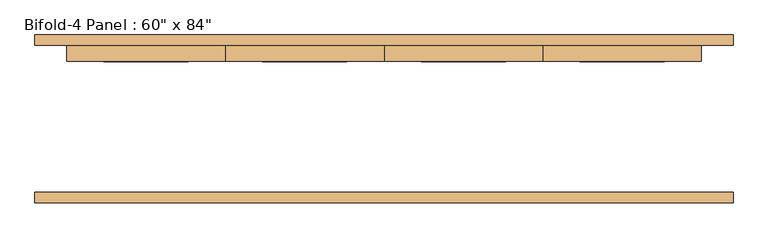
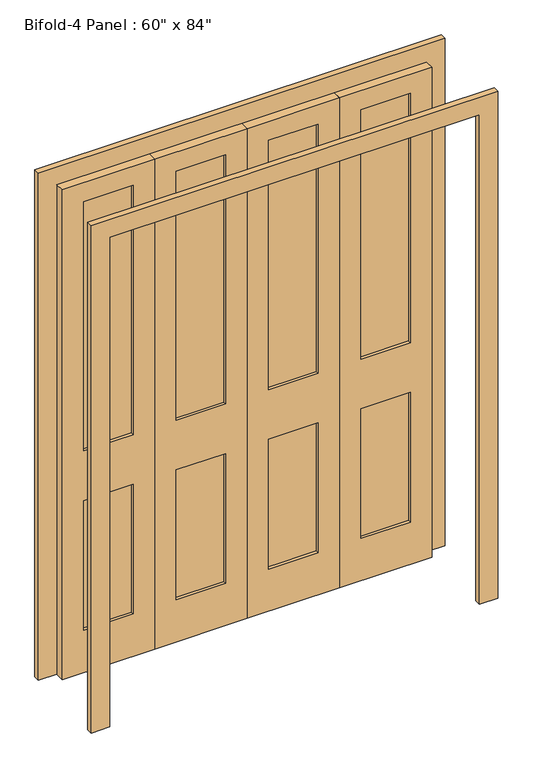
"""IFC4 building model written with IfcOpenShell, lengths in millimetres: door geometry."""

import ifcopenshell
import ifcopenshell.guid

model = None  # the IFC model being written
_history = None  # IfcOwnerHistory: only IFC2X3 demands one
_inside = {}  # id of a spatial element -> (the spatial element, [elements in it])
_under = {}  # id of a project, library or spatial element -> (it, [spatial elements below it])
_declared = {}  # id of a project -> (the project, [libraries it declares])
_typed = {}  # id of a type object -> (the type object, [elements of that type])
_made_of = {}  # id of a material, layer set ... -> (it, [elements and type objects made of it])


def new_model(schema):
    """Start an empty IFC model of exactly this schema.

    Asked for "IFC4X3", IfcOpenShell would pick the latest addendum, in which some entities
    have other attributes; the version numbers below select the first issue.
    IFC2X3 requires an IfcOwnerHistory on every rooted entity: one is made here for all.
    """
    global model, _history
    if schema == "IFC4X3":
        model = ifcopenshell.file(schema_version=(4, 3, 0, 0))
    else:
        model = ifcopenshell.file(schema=schema)
    _inside.clear()
    _under.clear()
    _declared.clear()
    _typed.clear()
    _made_of.clear()
    _history = None
    if model.schema == "IFC2X3":
        org = make("IfcOrganization", Name="unknown")
        user = make(
            "IfcPersonAndOrganization",
            ThePerson=make("IfcPerson", FamilyName="unknown"),
            TheOrganization=org,
        )
        app = make(
            "IfcApplication",
            ApplicationDeveloper=org,
            Version="unknown",
            ApplicationFullName="unknown",
            ApplicationIdentifier="unknown",
        )
        _history = make(
            "IfcOwnerHistory",
            OwningUser=user,
            OwningApplication=app,
            ChangeAction="ADDED",
            CreationDate=0,
        )
    return model


def make(cls, **values):
    """One entity of the class cls with the attributes given. An attribute that is None is left unset."""
    return model.create_entity(
        cls, **{name: value for name, value in values.items() if value is not None}
    )


def rooted(cls, **values):
    """An entity with a GlobalId (a new one), such as an element, a storey or a relation."""
    return make(cls, GlobalId=ifcopenshell.guid.new(), OwnerHistory=_history, **values)


def si_unit(unit_type, name, prefix=None):
    """IfcSIUnit, for example si_unit("LENGTHUNIT", "METRE", prefix="MILLI")."""
    return make("IfcSIUnit", UnitType=unit_type, Prefix=prefix, Name=name)


def assignment(units):
    """IfcUnitAssignment: the units of a project."""
    return None if units is None else make("IfcUnitAssignment", Units=units)


def point(xyz):
    """IfcCartesianPoint."""
    return None if xyz is None else make("IfcCartesianPoint", Coordinates=xyz)


def direction(xyz):
    """IfcDirection."""
    return None if xyz is None else make("IfcDirection", DirectionRatios=xyz)


def frame(location, z_axis=None, x_axis=None):
    """IfcAxis2Placement3D, a coordinate frame: its origin and axes. An axis left out is left unset."""
    return make(
        "IfcAxis2Placement3D",
        Location=point(location),
        Axis=direction(z_axis),
        RefDirection=direction(x_axis),
    )


def origin():
    """The frame at (0, 0, 0) with its axes left unset."""
    return frame((0.0, 0.0, 0.0))


def place(relative_to, where):
    """IfcLocalPlacement: puts the frame where relative to a parent placement (None: the world)."""
    return make(
        "IfcLocalPlacement", PlacementRelTo=relative_to, RelativePlacement=where
    )


def context(
    kind, dimensions, precision=None, world=None, true_north=None, identifier=None
):
    """IfcGeometricRepresentationContext, for example the 3D "Model" context."""
    return make(
        "IfcGeometricRepresentationContext",
        ContextIdentifier=identifier,
        ContextType=kind,
        CoordinateSpaceDimension=dimensions,
        Precision=precision,
        WorldCoordinateSystem=world,
        TrueNorth=true_north,
    )


def project(units=None, contexts=None):
    """IfcProject with its units and contexts."""
    return rooted(
        "IfcProject",
        Name="project",
        RepresentationContexts=contexts,
        UnitsInContext=assignment(units),
    )


def spatial(cls, under=None, at=None, **own):
    """A site, building, storey or space (cls), placed at a placement, below another one or the project."""
    s = rooted(cls, ObjectPlacement=at, **own)
    if under is not None:
        _under.setdefault(under.id(), (under, []))[1].append(s)
    return s


def polyline(points):
    """IfcPolyline through the points."""
    return make("IfcPolyline", Points=[point(p) for p in points])


def outline(outer, holes=None, kind="AREA"):
    """IfcArbitraryClosedProfileDef: a profile drawn as a closed curve; with holes, ...WithVoids."""
    if holes is None:
        return make("IfcArbitraryClosedProfileDef", ProfileType=kind, OuterCurve=outer)
    return make(
        "IfcArbitraryProfileDefWithVoids",
        ProfileType=kind,
        OuterCurve=outer,
        InnerCurves=holes,
    )


def extrude(swept, where, along, depth):
    """IfcExtrudedAreaSolid: the profile swept, set in the frame where, extruded along a direction by depth."""
    return make(
        "IfcExtrudedAreaSolid",
        SweptArea=swept,
        Position=where,
        ExtrudedDirection=direction(along),
        Depth=depth,
    )


def shape(context_of_items, identifier, shape_type, items):
    """IfcShapeRepresentation: the items that make up one representation, for example the "Body"."""
    return make(
        "IfcShapeRepresentation",
        ContextOfItems=context_of_items,
        RepresentationIdentifier=identifier,
        RepresentationType=shape_type,
        Items=items,
    )


def source(mapping_origin, context_of_items, identifier, shape_type, items):
    """IfcRepresentationMap: a shape defined once, which mapped items show again and again."""
    return make(
        "IfcRepresentationMap",
        MappingOrigin=mapping_origin,
        MappedRepresentation=shape(context_of_items, identifier, shape_type, items),
    )


def transform(
    local_origin,
    x_axis=None,
    y_axis=None,
    z_axis=None,
    scale=None,
    scale2=None,
    scale3=None,
    uniform=True,
):
    """IfcCartesianTransformationOperator3D, or its non-uniform kind. x_axis, y_axis, z_axis: its Axis1, 2, 3."""
    if uniform:
        return make(
            "IfcCartesianTransformationOperator3D",
            Axis1=direction(x_axis),
            Axis2=direction(y_axis),
            LocalOrigin=point(local_origin),
            Scale=scale,
            Axis3=direction(z_axis),
        )
    return make(
        "IfcCartesianTransformationOperator3DnonUniform",
        Axis1=direction(x_axis),
        Axis2=direction(y_axis),
        LocalOrigin=point(local_origin),
        Scale=scale,
        Axis3=direction(z_axis),
        Scale2=scale2,
        Scale3=scale3,
    )


def mapped(mapping_source, mapping_target):
    """IfcMappedItem: shows the shape of a source again, moved by a transform."""
    return make(
        "IfcMappedItem", MappingSource=mapping_source, MappingTarget=mapping_target
    )


def made_of(thing, what):
    """Note that an element or type object is made of a material, layer set ...; save() writes the relation."""
    if what is not None:
        _made_of.setdefault(what.id(), (what, []))[1].append(thing)
    return thing


def element(
    cls,
    number,
    at=None,
    inside=None,
    cuts=None,
    type_object=None,
    material=None,
    context=None,
    identifier="Body",
    shape_type=None,
    held_by="IfcProductDefinitionShape",
    body=None,
    shapes=None,
    **own,
):
    """One element of the class cls, such as IfcWall. Its Tag is "e" and its number.

    at: its placement. inside: the storey or other place that contains it. cuts: it is an
    opening in that element (IfcRelVoidsElement). A single representation is given by context,
    identifier, shape_type and body (its items); several are given by shapes. held_by: the class
    of the entity that holds the representations. save() writes the other relations.
    """
    e = rooted(cls, Tag="e%d" % number, ObjectPlacement=at, **own)
    if body is not None:
        shapes = [shape(context, identifier, shape_type, body)]
    if shapes is not None:
        e.Representation = make(held_by, Representations=shapes)
    if inside is not None:
        _inside.setdefault(inside.id(), (inside, []))[1].append(e)
    if cuts is not None:
        rooted(
            "IfcRelVoidsElement", RelatingBuildingElement=cuts, RelatedOpeningElement=e
        )
    if type_object is not None:
        _typed.setdefault(type_object.id(), (type_object, []))[1].append(e)
    return made_of(e, material)


def aggregate(whole, parts):
    """IfcRelAggregates: a whole, such as a stair, and the parts it consists of."""
    return rooted("IfcRelAggregates", RelatingObject=whole, RelatedObjects=parts)


def save(model, path):
    """Write the relations noted so far, then the file.

    IfcRelAggregates (storeys below a building ...), IfcRelContainedInSpatialStructure (elements
    in a storey), IfcRelDefinesByType, IfcRelAssociatesMaterial and IfcRelDeclares: one each for
    every whole, place, type object, material and project.
    """
    for whole, parts in _under.values():
        aggregate(whole, parts)
    for where, things in _inside.values():
        rooted(
            "IfcRelContainedInSpatialStructure",
            RelatedElements=things,
            RelatingStructure=where,
        )
    for kind, things in _typed.values():
        rooted("IfcRelDefinesByType", RelatedObjects=things, RelatingType=kind)
    for what, things in _made_of.values():
        rooted("IfcRelAssociatesMaterial", RelatedObjects=things, RelatingMaterial=what)
    for by, libraries in _declared.values():
        rooted("IfcRelDeclares", RelatingContext=by, RelatedDefinitions=libraries)
    model.write(path)


def door_0d09f749(model_context):
    return source(origin(), model_context, "Body", "SweptSolid", [
        extrude(outline(polyline([(469.9, 163.5125), (673.1, 163.5125), (673.1, 150.8125), (469.9, 150.8125), (469.9, 163.5125)])), frame((0.0, 0.0, 965.2), z_axis=(0.0, 0.0, 1.0), x_axis=(1.0, 0.0, 0.0)), (0.0, 0.0, 1.0), 1085.85),
        extrude(outline(polyline([(469.9, 163.5125), (673.1, 163.5125), (673.1, 150.8125), (469.9, 150.8125), (469.9, 163.5125)])), frame((0.0, 0.0, 184.15), z_axis=(0.0, 0.0, 1.0), x_axis=(1.0, 0.0, 0.0)), (0.0, 0.0, 1.0), 565.15),
        extrude(outline(polyline([(88.9, 163.5125), (292.1, 163.5125), (292.1, 150.8125), (88.9, 150.8125), (88.9, 163.5125)])), frame((0.0, 0.0, 965.2), z_axis=(0.0, 0.0, 1.0), x_axis=(1.0, 0.0, 0.0)), (0.0, 0.0, 1.0), 1085.85),
        extrude(outline(polyline([(88.9, 163.5125), (292.1, 163.5125), (292.1, 150.8125), (88.9, 150.8125), (88.9, 163.5125)])), frame((0.0, 0.0, 184.15), z_axis=(0.0, 0.0, 1.0), x_axis=(1.0, 0.0, 0.0)), (0.0, 0.0, 1.0), 565.15),
        extrude(outline(polyline([(-292.1, 163.5125), (-88.9, 163.5125), (-88.9, 150.8125), (-292.1, 150.8125), (-292.1, 163.5125)])), frame((0.0, 0.0, 184.15), z_axis=(0.0, 0.0, 1.0), x_axis=(1.0, 0.0, 0.0)), (0.0, 0.0, 1.0), 565.15),
        extrude(outline(polyline([(-292.1, 163.5125), (-88.9, 163.5125), (-88.9, 150.8125), (-292.1, 150.8125), (-292.1, 163.5125)])), frame((0.0, 0.0, 965.2), z_axis=(0.0, 0.0, 1.0), x_axis=(1.0, 0.0, 0.0)), (0.0, 0.0, 1.0), 1085.85),
        extrude(outline(polyline([(-673.1, 163.5125), (-469.9, 163.5125), (-469.9, 150.8125), (-673.1, 150.8125), (-673.1, 163.5125)])), frame((0.0, 0.0, 965.2), z_axis=(0.0, 0.0, 1.0), x_axis=(1.0, 0.0, 0.0)), (0.0, 0.0, 1.0), 1085.85),
        extrude(outline(polyline([(-673.1, 163.5125), (-469.9, 163.5125), (-469.9, 150.8125), (-673.1, 150.8125), (-673.1, 163.5125)])), frame((0.0, 0.0, 184.15), z_axis=(0.0, 0.0, 1.0), x_axis=(1.0, 0.0, 0.0)), (0.0, 0.0, 1.0), 565.15),
        extrude(outline(polyline([(0.0, 838.2), (2209.8, 838.2), (2209.8, -838.2), (0.0, -838.2), (0.0, -762.0), (2133.6, -762.0), (2133.6, 762.0), (0.0, 762.0), (0.0, 838.2)])), frame((0.0, -201.6125, 0.0), z_axis=(0.0, 1.0, 0.0), x_axis=(0.0, 0.0, 1.0)), (0.0, 0.0, 1.0), 25.4),
        extrude(outline(polyline([(0.0, 838.2), (2209.8, 838.2), (2209.8, -838.2), (0.0, -838.2), (0.0, -762.0), (2133.6, -762.0), (2133.6, 762.0), (0.0, 762.0), (0.0, 838.2)])), frame((0.0, 176.2125, 0.0), z_axis=(0.0, 1.0, 0.0), x_axis=(0.0, 0.0, 1.0)), (0.0, 0.0, 1.0), 25.4),
        extrude(outline(polyline([(0.0, -762.0), (0.0, -381.0), (2133.6, -381.0), (2133.6, -762.0), (0.0, -762.0)]), holes=[polyline([(2051.05, -673.1), (2051.05, -469.9), (965.2, -469.9), (965.2, -673.1), (2051.05, -673.1)]), polyline([(749.3, -673.1), (749.3, -469.9), (184.15, -469.9), (184.15, -673.1), (749.3, -673.1)])]), frame((0.0, 138.1125, 0.0), z_axis=(0.0, 1.0, 0.0), x_axis=(0.0, 0.0, 1.0)), (0.0, 0.0, 1.0), 38.1),
        extrude(outline(polyline([(0.0, -381.0), (0.0, 0.0), (2133.6, 0.0), (2133.6, -381.0), (0.0, -381.0)]), holes=[polyline([(2051.05, -292.1), (2051.05, -88.9), (965.2, -88.9), (965.2, -292.1), (2051.05, -292.1)]), polyline([(749.3, -292.1), (749.3, -88.9), (184.15, -88.9), (184.15, -292.1), (749.3, -292.1)])]), frame((0.0, 138.1125, 0.0), z_axis=(0.0, 1.0, 0.0), x_axis=(0.0, 0.0, 1.0)), (0.0, 0.0, 1.0), 38.1),
        extrude(outline(polyline([(0.0, 0.0), (0.0, 381.0), (2133.6, 381.0), (2133.6, 0.0), (0.0, 0.0)]), holes=[polyline([(2051.05, 88.9), (2051.05, 292.1), (965.2, 292.1), (965.2, 88.9), (2051.05, 88.9)]), polyline([(749.3, 88.9), (749.3, 292.1), (184.15, 292.1), (184.15, 88.9), (749.3, 88.9)])]), frame((0.0, 138.1125, 0.0), z_axis=(0.0, 1.0, 0.0), x_axis=(0.0, 0.0, 1.0)), (0.0, 0.0, 1.0), 38.1),
        extrude(outline(polyline([(0.0, 381.0), (0.0, 762.0), (2133.6, 762.0), (2133.6, 381.0), (0.0, 381.0)]), holes=[polyline([(2051.05, 469.9), (2051.05, 673.1), (965.2, 673.1), (965.2, 469.9), (2051.05, 469.9)]), polyline([(749.3, 469.9), (749.3, 673.1), (184.15, 673.1), (184.15, 469.9), (749.3, 469.9)])]), frame((0.0, 138.1125, 0.0), z_axis=(0.0, 1.0, 0.0), x_axis=(0.0, 0.0, 1.0)), (0.0, 0.0, 1.0), 38.1),
    ])


if __name__ == "__main__":
    model = new_model("IFC4")
    model_context = context("Model", 3, world=origin())
    ifc_project = project(units=[si_unit("LENGTHUNIT", "METRE", prefix="MILLI")], contexts=[model_context])
    site = spatial("IfcSite", under=ifc_project)
    building = spatial("IfcBuilding", under=site)
    placement = place(None, origin())
    door_shape = door_0d09f749(model_context)
    element("IfcDoor", 1, ObjectType="Bifold-4 Panel : 60\" x 84\"", at=placement, inside=building, context=model_context, shape_type="MappedRepresentation", body=[
        mapped(door_shape, transform((0.0, 0.0, 0.0), x_axis=(1.0, 0.0, 0.0), y_axis=(0.0, 1.0, 0.0), z_axis=(0.0, 0.0, 1.0))),
    ])
    save(model, "model.ifc")
